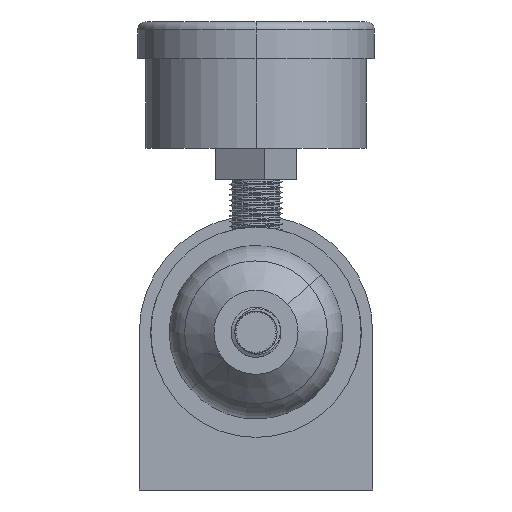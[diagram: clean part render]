
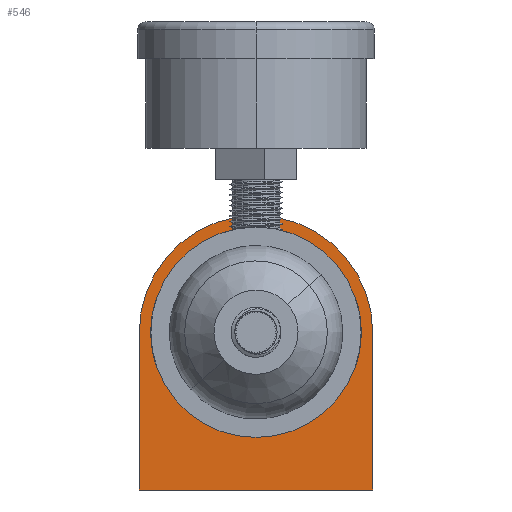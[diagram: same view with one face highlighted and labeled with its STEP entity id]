
A CAD part, front view. The second image highlights one B-rep face of the part: STEP entity #546.
In plain terms, the highlighted planar face has unit normal (0, -1, 0).
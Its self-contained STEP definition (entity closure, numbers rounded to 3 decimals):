
#206 = LINE ( 'NONE', #11814, #9531 ) ;
#546 = ADVANCED_FACE ( 'NONE', ( #19961, #15165 ), #21457, .F. ) ;
#657 = DIRECTION ( 'NONE',  ( 0., 1., 0. ) ) ;
#757 = AXIS2_PLACEMENT_3D ( 'NONE', #1259, #11841, #6416 ) ;
#1259 = CARTESIAN_POINT ( 'NONE',  ( 0., -27., 30. ) ) ;
#1351 = CARTESIAN_POINT ( 'NONE',  ( -22.2, -27., 0. ) ) ;
#2109 = DIRECTION ( 'NONE',  ( 0., 0., 1. ) ) ;
#2743 = EDGE_CURVE ( 'NONE', #19129, #14450, #8328, .T. ) ;
#2888 = VECTOR ( 'NONE', #11751, 1000. ) ;
#3351 = DIRECTION ( 'NONE',  ( 0., 0., 1. ) ) ;
#3366 = EDGE_LOOP ( 'NONE', ( #21328, #4546, #18597, #5138, #22632 ) ) ;
#3679 = EDGE_CURVE ( 'NONE', #14450, #17509, #206, .T. ) ;
#4546 = ORIENTED_EDGE ( 'NONE', *, *, #12513, .T. ) ;
#5078 = DIRECTION ( 'NONE',  ( 0., 1., 0. ) ) ;
#5131 = ORIENTED_EDGE ( 'NONE', *, *, #21782, .T. ) ;
#5138 = ORIENTED_EDGE ( 'NONE', *, *, #3679, .F. ) ;
#6128 = DIRECTION ( 'NONE',  ( 0., 0., 1. ) ) ;
#6416 = DIRECTION ( 'NONE',  ( 0., 0., 1. ) ) ;
#6695 = CARTESIAN_POINT ( 'NONE',  ( 22.2, -27., 0. ) ) ;
#8328 = CIRCLE ( 'NONE', #19744, 22.2 ) ;
#8500 = VERTEX_POINT ( 'NONE', #18209 ) ;
#9023 = LINE ( 'NONE', #23211, #17478 ) ;
#9193 = CARTESIAN_POINT ( 'NONE',  ( 0., -27., 30. ) ) ;
#9531 = VECTOR ( 'NONE', #20617, 1000. ) ;
#9540 = VERTEX_POINT ( 'NONE', #15926 ) ;
#10317 = DIRECTION ( 'NONE',  ( 0., 0., 1. ) ) ;
#10509 = CIRCLE ( 'NONE', #757, 15.25 ) ;
#11195 = CIRCLE ( 'NONE', #15810, 15.25 ) ;
#11751 = DIRECTION ( 'NONE',  ( 0., 0., -1. ) ) ;
#11814 = CARTESIAN_POINT ( 'NONE',  ( 22.2, -27., 1.6 ) ) ;
#11841 = DIRECTION ( 'NONE',  ( 0., 1., 0. ) ) ;
#12513 = EDGE_CURVE ( 'NONE', #8500, #14185, #18598, .T. ) ;
#12832 = DIRECTION ( 'NONE',  ( 0., 1., 0. ) ) ;
#12849 = DIRECTION ( 'NONE',  ( 0., 1., 0. ) ) ;
#13098 = VERTEX_POINT ( 'NONE', #14351 ) ;
#14185 = VERTEX_POINT ( 'NONE', #1351 ) ;
#14351 = CARTESIAN_POINT ( 'NONE',  ( 0., -27., 45.25 ) ) ;
#14450 = VERTEX_POINT ( 'NONE', #16494 ) ;
#14898 = EDGE_CURVE ( 'NONE', #8500, #19129, #16546, .T. ) ;
#15057 = CARTESIAN_POINT ( 'NONE',  ( 0., -27., 30. ) ) ;
#15165 = FACE_OUTER_BOUND ( 'NONE', #3366, .T. ) ;
#15216 = EDGE_CURVE ( 'NONE', #9540, #13098, #11195, .T. ) ;
#15273 = EDGE_LOOP ( 'NONE', ( #5131, #16857 ) ) ;
#15420 = CARTESIAN_POINT ( 'NONE',  ( -22.2, -27., 1.6 ) ) ;
#15682 = AXIS2_PLACEMENT_3D ( 'NONE', #16369, #12849, #10317 ) ;
#15810 = AXIS2_PLACEMENT_3D ( 'NONE', #15057, #657, #6128 ) ;
#15926 = CARTESIAN_POINT ( 'NONE',  ( 0., -27., 14.75 ) ) ;
#16369 = CARTESIAN_POINT ( 'NONE',  ( -22.2, -27., 1.6 ) ) ;
#16417 = AXIS2_PLACEMENT_3D ( 'NONE', #9193, #12832, #2109 ) ;
#16494 = CARTESIAN_POINT ( 'NONE',  ( 22.2, -27., 30. ) ) ;
#16546 = CIRCLE ( 'NONE', #16417, 22.2 ) ;
#16857 = ORIENTED_EDGE ( 'NONE', *, *, #15216, .T. ) ;
#17478 = VECTOR ( 'NONE', #21405, 1000. ) ;
#17509 = VERTEX_POINT ( 'NONE', #6695 ) ;
#18209 = CARTESIAN_POINT ( 'NONE',  ( -22.2, -27., 30. ) ) ;
#18597 = ORIENTED_EDGE ( 'NONE', *, *, #22858, .T. ) ;
#18598 = LINE ( 'NONE', #15420, #2888 ) ;
#19129 = VERTEX_POINT ( 'NONE', #20036 ) ;
#19280 = CARTESIAN_POINT ( 'NONE',  ( 0., -27., 30. ) ) ;
#19744 = AXIS2_PLACEMENT_3D ( 'NONE', #19280, #5078, #3351 ) ;
#19961 = FACE_BOUND ( 'NONE', #15273, .T. ) ;
#20036 = CARTESIAN_POINT ( 'NONE',  ( 0., -27., 52.2 ) ) ;
#20617 = DIRECTION ( 'NONE',  ( 0., 0., -1. ) ) ;
#21328 = ORIENTED_EDGE ( 'NONE', *, *, #14898, .F. ) ;
#21405 = DIRECTION ( 'NONE',  ( 1., 0., 0. ) ) ;
#21457 = PLANE ( 'NONE',  #15682 ) ;
#21782 = EDGE_CURVE ( 'NONE', #13098, #9540, #10509, .T. ) ;
#22632 = ORIENTED_EDGE ( 'NONE', *, *, #2743, .F. ) ;
#22858 = EDGE_CURVE ( 'NONE', #14185, #17509, #9023, .T. ) ;
#23211 = CARTESIAN_POINT ( 'NONE',  ( -22.2, -27., 0. ) ) ;
